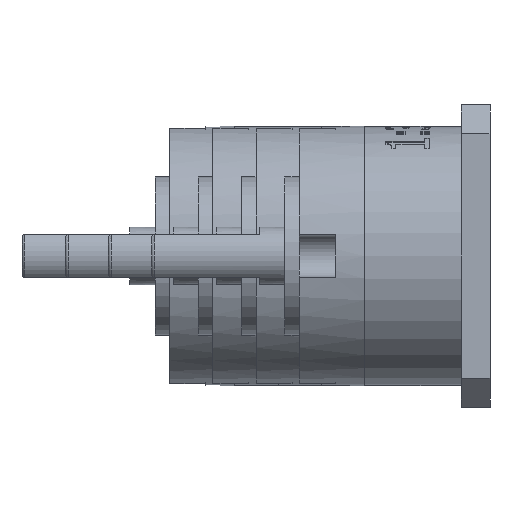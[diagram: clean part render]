
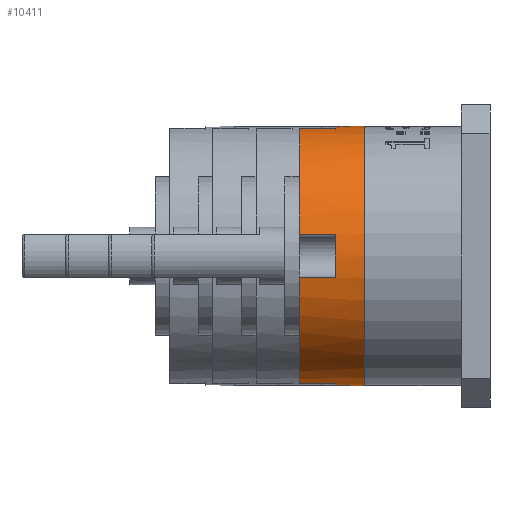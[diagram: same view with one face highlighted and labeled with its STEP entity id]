
A CAD part, left-side view. The second image highlights one B-rep face of the part: STEP entity #10411.
In plain terms, the highlighted cylindrical face has radius 18 mm (diameter 36 mm), a full revolution.
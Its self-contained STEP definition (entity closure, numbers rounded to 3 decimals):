
#1035=FACE_OUTER_BOUND('',#1686,.T.);
#1686=EDGE_LOOP('',(#7467,#7468,#7469,#7470,#7471,#7472,#7473,#7474,#7475,
#7476,#7477,#7478,#7479,#7480,#7481,#7482,#7483,#7484,#7485,#7486));
#2369=CIRCLE('',#11175,18.);
#2390=CIRCLE('',#11218,18.);
#2394=CIRCLE('',#11226,18.);
#2398=CIRCLE('',#11234,18.);
#2399=CIRCLE('',#11236,18.);
#2400=CIRCLE('',#11237,18.);
#2401=CIRCLE('',#11238,18.);
#2402=CIRCLE('',#11239,18.);
#2403=CIRCLE('',#11240,18.);
#2404=CIRCLE('',#11241,18.);
#2909=LINE('',#16040,#3713);
#2912=LINE('',#16053,#3716);
#2917=LINE('',#16065,#3721);
#2920=LINE('',#16078,#3724);
#2925=LINE('',#16090,#3729);
#2928=LINE('',#16103,#3732);
#2930=LINE('',#16113,#3734);
#2931=LINE('',#16116,#3735);
#2932=LINE('',#16120,#3736);
#3713=VECTOR('',#12505,10.);
#3716=VECTOR('',#12518,10.);
#3721=VECTOR('',#12529,10.);
#3724=VECTOR('',#12542,10.);
#3729=VECTOR('',#12553,10.);
#3732=VECTOR('',#12566,10.);
#3734=VECTOR('',#12580,10.);
#3735=VECTOR('',#12583,18.);
#3736=VECTOR('',#12586,10.);
#4529=VERTEX_POINT('',#15953);
#4556=VERTEX_POINT('',#16034);
#4558=VERTEX_POINT('',#16038);
#4562=VERTEX_POINT('',#16050);
#4563=VERTEX_POINT('',#16052);
#4565=VERTEX_POINT('',#16059);
#4567=VERTEX_POINT('',#16063);
#4571=VERTEX_POINT('',#16075);
#4572=VERTEX_POINT('',#16077);
#4574=VERTEX_POINT('',#16084);
#4576=VERTEX_POINT('',#16088);
#4580=VERTEX_POINT('',#16100);
#4581=VERTEX_POINT('',#16102);
#4582=VERTEX_POINT('',#16110);
#4583=VERTEX_POINT('',#16112);
#4584=VERTEX_POINT('',#16114);
#4585=VERTEX_POINT('',#16117);
#4586=VERTEX_POINT('',#16119);
#5617=EDGE_CURVE('',#4529,#4529,#2369,.T.);
#5655=EDGE_CURVE('',#4556,#4558,#2909,.T.);
#5661=EDGE_CURVE('',#4563,#4562,#2912,.T.);
#5663=EDGE_CURVE('',#4558,#4563,#2390,.T.);
#5667=EDGE_CURVE('',#4565,#4567,#2917,.T.);
#5673=EDGE_CURVE('',#4572,#4571,#2920,.T.);
#5675=EDGE_CURVE('',#4567,#4572,#2394,.T.);
#5679=EDGE_CURVE('',#4574,#4576,#2925,.T.);
#5685=EDGE_CURVE('',#4581,#4580,#2928,.T.);
#5687=EDGE_CURVE('',#4576,#4581,#2398,.T.);
#5688=EDGE_CURVE('',#4565,#4562,#2399,.T.);
#5689=EDGE_CURVE('',#4574,#4571,#2400,.T.);
#5690=EDGE_CURVE('',#4582,#4580,#2401,.T.);
#5691=EDGE_CURVE('',#4582,#4583,#2930,.T.);
#5692=EDGE_CURVE('',#4583,#4584,#2402,.T.);
#5693=EDGE_CURVE('',#4584,#4529,#2931,.T.);
#5694=EDGE_CURVE('',#4584,#4585,#2403,.T.);
#5695=EDGE_CURVE('',#4585,#4586,#2932,.T.);
#5696=EDGE_CURVE('',#4556,#4586,#2404,.T.);
#7467=ORIENTED_EDGE('',*,*,#5655,.T.);
#7468=ORIENTED_EDGE('',*,*,#5663,.T.);
#7469=ORIENTED_EDGE('',*,*,#5661,.T.);
#7470=ORIENTED_EDGE('',*,*,#5688,.F.);
#7471=ORIENTED_EDGE('',*,*,#5667,.T.);
#7472=ORIENTED_EDGE('',*,*,#5675,.T.);
#7473=ORIENTED_EDGE('',*,*,#5673,.T.);
#7474=ORIENTED_EDGE('',*,*,#5689,.F.);
#7475=ORIENTED_EDGE('',*,*,#5679,.T.);
#7476=ORIENTED_EDGE('',*,*,#5687,.T.);
#7477=ORIENTED_EDGE('',*,*,#5685,.T.);
#7478=ORIENTED_EDGE('',*,*,#5690,.F.);
#7479=ORIENTED_EDGE('',*,*,#5691,.T.);
#7480=ORIENTED_EDGE('',*,*,#5692,.T.);
#7481=ORIENTED_EDGE('',*,*,#5693,.T.);
#7482=ORIENTED_EDGE('',*,*,#5617,.T.);
#7483=ORIENTED_EDGE('',*,*,#5693,.F.);
#7484=ORIENTED_EDGE('',*,*,#5694,.T.);
#7485=ORIENTED_EDGE('',*,*,#5695,.T.);
#7486=ORIENTED_EDGE('',*,*,#5696,.F.);
#9974=CYLINDRICAL_SURFACE('',#11235,18.);
#10411=ADVANCED_FACE('',(#1035),#9974,.T.);
#11175=AXIS2_PLACEMENT_3D('',#15954,#12411,#12412);
#11218=AXIS2_PLACEMENT_3D('',#16056,#12522,#12523);
#11226=AXIS2_PLACEMENT_3D('',#16081,#12546,#12547);
#11234=AXIS2_PLACEMENT_3D('',#16106,#12570,#12571);
#11235=AXIS2_PLACEMENT_3D('',#16107,#12572,#12573);
#11236=AXIS2_PLACEMENT_3D('',#16108,#12574,#12575);
#11237=AXIS2_PLACEMENT_3D('',#16109,#12576,#12577);
#11238=AXIS2_PLACEMENT_3D('',#16111,#12578,#12579);
#11239=AXIS2_PLACEMENT_3D('',#16115,#12581,#12582);
#11240=AXIS2_PLACEMENT_3D('',#16118,#12584,#12585);
#11241=AXIS2_PLACEMENT_3D('',#16121,#12587,#12588);
#12411=DIRECTION('center_axis',(0.,1.,0.));
#12412=DIRECTION('ref_axis',(1.,0.,0.));
#12505=DIRECTION('',(0.,-1.,0.));
#12518=DIRECTION('',(0.,1.,0.));
#12522=DIRECTION('center_axis',(0.,-1.,0.));
#12523=DIRECTION('ref_axis',(1.,0.,0.));
#12529=DIRECTION('',(0.,-1.,0.));
#12542=DIRECTION('',(0.,1.,0.));
#12546=DIRECTION('center_axis',(0.,-1.,0.));
#12547=DIRECTION('ref_axis',(1.,0.,0.));
#12553=DIRECTION('',(0.,-1.,0.));
#12566=DIRECTION('',(0.,1.,0.));
#12570=DIRECTION('center_axis',(0.,-1.,0.));
#12571=DIRECTION('ref_axis',(1.,0.,0.));
#12572=DIRECTION('center_axis',(0.,1.,0.));
#12573=DIRECTION('ref_axis',(1.,0.,0.));
#12574=DIRECTION('center_axis',(0.,1.,0.));
#12575=DIRECTION('ref_axis',(1.,0.,0.));
#12576=DIRECTION('center_axis',(0.,1.,0.));
#12577=DIRECTION('ref_axis',(1.,0.,0.));
#12578=DIRECTION('center_axis',(0.,1.,0.));
#12579=DIRECTION('ref_axis',(1.,0.,0.));
#12580=DIRECTION('',(0.,-1.,0.));
#12581=DIRECTION('center_axis',(0.,-1.,0.));
#12582=DIRECTION('ref_axis',(1.,0.,0.));
#12583=DIRECTION('',(0.,-1.,0.));
#12584=DIRECTION('center_axis',(0.,-1.,0.));
#12585=DIRECTION('ref_axis',(1.,0.,0.));
#12586=DIRECTION('',(0.,1.,0.));
#12587=DIRECTION('center_axis',(0.,1.,0.));
#12588=DIRECTION('ref_axis',(1.,0.,0.));
#15953=CARTESIAN_POINT('',(-18.,17.5,0.));
#15954=CARTESIAN_POINT('Origin',(0.,17.5,0.));
#16034=CARTESIAN_POINT('',(-3.,26.5,-17.748));
#16038=CARTESIAN_POINT('',(-3.,21.5,-17.748));
#16040=CARTESIAN_POINT('',(-3.,4.,-17.748));
#16050=CARTESIAN_POINT('',(3.,26.5,-17.748));
#16052=CARTESIAN_POINT('',(3.,21.5,-17.748));
#16053=CARTESIAN_POINT('',(3.,4.,-17.748));
#16056=CARTESIAN_POINT('Origin',(0.,21.5,0.));
#16059=CARTESIAN_POINT('',(17.748,26.5,-3.));
#16063=CARTESIAN_POINT('',(17.748,21.5,-3.));
#16065=CARTESIAN_POINT('',(17.748,4.,-3.));
#16075=CARTESIAN_POINT('',(17.748,26.5,3.));
#16077=CARTESIAN_POINT('',(17.748,21.5,3.));
#16078=CARTESIAN_POINT('',(17.748,4.,3.));
#16081=CARTESIAN_POINT('Origin',(0.,21.5,0.));
#16084=CARTESIAN_POINT('',(3.,26.5,17.748));
#16088=CARTESIAN_POINT('',(3.,21.5,17.748));
#16090=CARTESIAN_POINT('',(3.,4.,17.748));
#16100=CARTESIAN_POINT('',(-3.,26.5,17.748));
#16102=CARTESIAN_POINT('',(-3.,21.5,17.748));
#16103=CARTESIAN_POINT('',(-3.,4.,17.748));
#16106=CARTESIAN_POINT('Origin',(0.,21.5,0.));
#16107=CARTESIAN_POINT('Origin',(0.,4.,0.));
#16108=CARTESIAN_POINT('Origin',(0.,26.5,0.));
#16109=CARTESIAN_POINT('Origin',(0.,26.5,0.));
#16110=CARTESIAN_POINT('',(-17.748,26.5,3.));
#16111=CARTESIAN_POINT('Origin',(0.,26.5,0.));
#16112=CARTESIAN_POINT('',(-17.748,21.5,3.));
#16113=CARTESIAN_POINT('',(-17.748,4.,3.));
#16114=CARTESIAN_POINT('',(-18.,21.5,0.));
#16115=CARTESIAN_POINT('Origin',(0.,21.5,0.));
#16116=CARTESIAN_POINT('',(-18.,4.,0.));
#16117=CARTESIAN_POINT('',(-17.748,21.5,-3.));
#16118=CARTESIAN_POINT('Origin',(0.,21.5,0.));
#16119=CARTESIAN_POINT('',(-17.748,26.5,-3.));
#16120=CARTESIAN_POINT('',(-17.748,4.,-3.));
#16121=CARTESIAN_POINT('Origin',(0.,26.5,0.));
